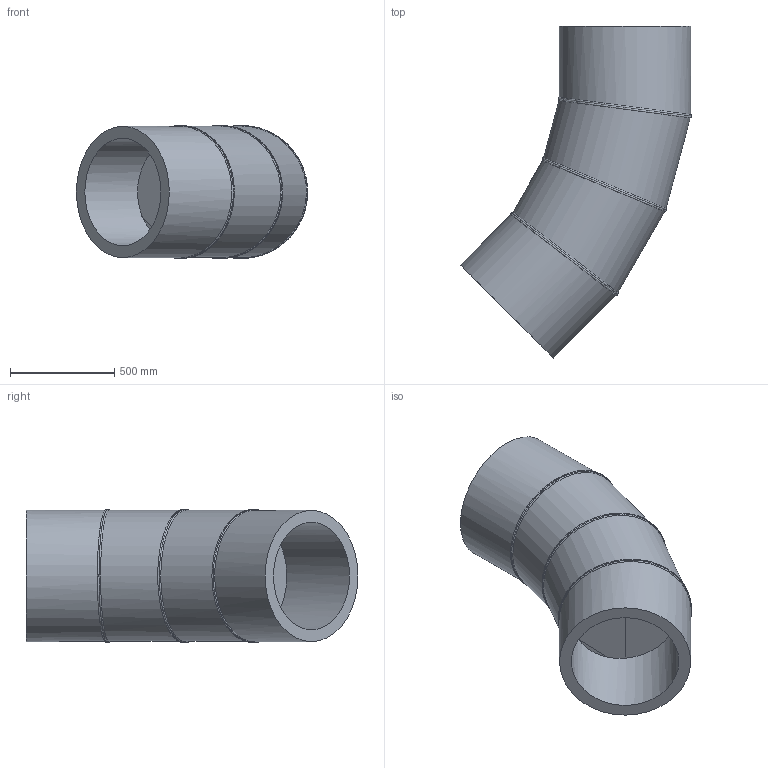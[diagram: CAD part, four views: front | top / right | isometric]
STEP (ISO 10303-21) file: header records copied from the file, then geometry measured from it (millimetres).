
FILE_DESCRIPTION(/* description */ ('Unknown'),/* implementation_level */ '2;1');
FILE_NAME(/* name */ 'Curva 45° a settore DE630 SDR11',/* time_stamp */ '2022-07-26T09:34:50+02:00',/* author */ ('Unknown'),/* organization */ ('Unknown'),/* preprocessor_version */ 'ST-DEVELOPER v18.102',/* originating_system */ 'Solid Edge',/* authorisation */ 'Unknown');
FILE_SCHEMA (('AUTOMOTIVE_DESIGN {1 0 10303 214 3 1 1}'));
Length unit declared in the file: millimetre
Products named in the file (3): Curva 45° a settore DE630 SDR11; Tubo x Gomito 45° DE630 SDR11 - 1; Tubo x Gomito 45° DE630 SDR11 - 2
Assembly tree (4 placements, depth 2):
  Curva 45° a settore DE630 SDR11
    Tubo x Gomito 45° DE630 SDR11 - 1  x2
    Tubo x Gomito 45° DE630 SDR11 - 2  x2
Bounding box: 1109.12 x 1592.55 x 637.99 mm (x, y, z)
Volume: 159724593 mm3; surface area: 6458691.9 mm2
Topology: 4 solids, 4 shells, 34 faces, 74 edges, 48 vertices
Faces by surface type: cylinder 20, plane 8, bspline 6
Full cylindrical faces by diameter (mm): 515.6 x4, 630 x4
Entity records: 3422 total; most frequent: CARTESIAN_POINT 3020, DIRECTION 72, ORIENTED_EDGE 52, AXIS2_PLACEMENT_3D 36, EDGE_LOOP 28, FACE_BOUND 28, EDGE_CURVE 26, VERTEX_POINT 20
